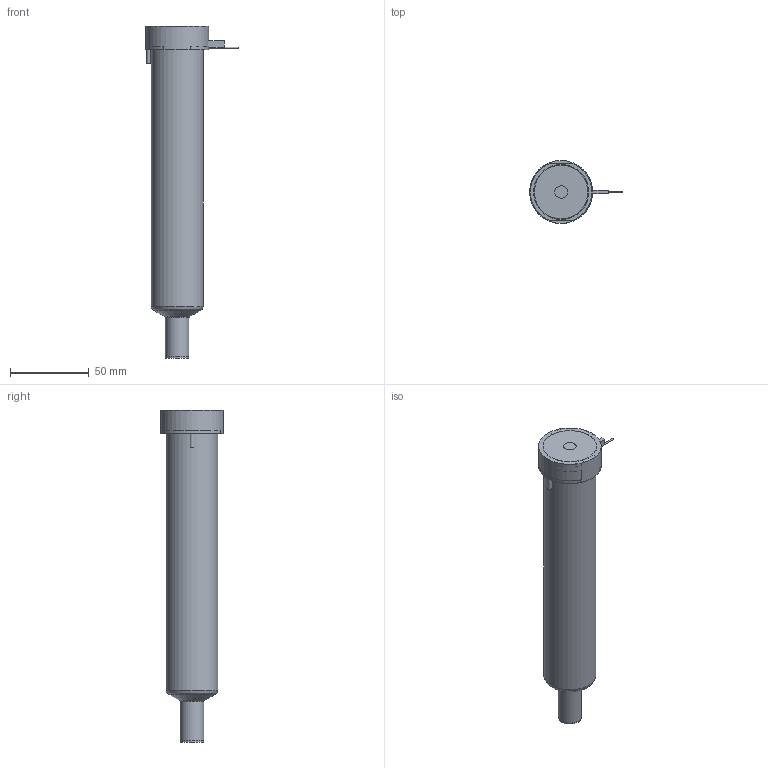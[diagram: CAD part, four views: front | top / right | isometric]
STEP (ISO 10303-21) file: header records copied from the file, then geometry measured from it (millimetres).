
FILE_DESCRIPTION(/* description */ (''),/* implementation_level */ '2;1');
FILE_NAME(/* name */ 'BXYCN19175P4F_250C_a',/* time_stamp */ '2016-02-18T17:16:29+13:00',/* author */ (''),/* organization */ (''),/* preprocessor_version */ 'ST-DEVELOPER v9',/* originating_system */ 'UGS - NX 4.0',/* authorisation */ '');
FILE_SCHEMA (('CONFIG_CONTROL_DESIGN'));
Length unit declared in the file: millimetre
Products named in the file (1): matt5E57pzb7
Bounding box: 58.85 x 40 x 210.86 mm (x, y, z)
Volume: 292549.7 mm3; surface area: 44855.4 mm2
Topology: 2 solids, 2 shells, 66 faces, 148 edges, 96 vertices
Faces by surface type: plane 31, cylinder 21, torus 7, cone 5, bspline 1, sphere 1
Full cylindrical faces by diameter (mm): 1 x2, 2.5 x2, 7 x1, 8 x1, 14.61 x1, 14.995 x2, 18.3 x1, 28.6 x1, 33 x1, 40 x1
Entity records: 1929 total; most frequent: CARTESIAN_POINT 483, DIRECTION 297, ORIENTED_EDGE 232, AXIS2_PLACEMENT_3D 127, EDGE_CURVE 116, EDGE_LOOP 102, VERTEX_POINT 88, ADVANCED_FACE 66
